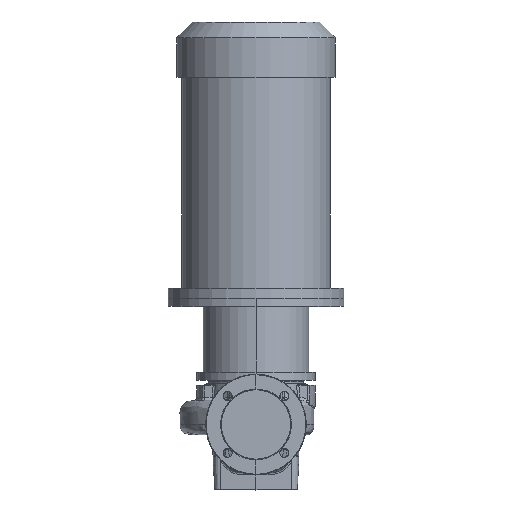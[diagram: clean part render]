
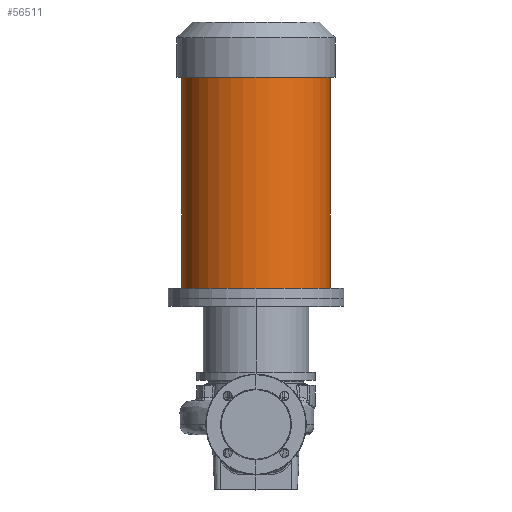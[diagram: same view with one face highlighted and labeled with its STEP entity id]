
A CAD part, top view. The second image highlights one B-rep face of the part: STEP entity #56511.
In plain terms, the highlighted cylindrical face has radius 147.5 mm (diameter 295 mm), a partial arc.
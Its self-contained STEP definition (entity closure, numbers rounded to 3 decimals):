
#381 = ORIENTED_EDGE ( 'NONE', *, *, #42051, .F. ) ;
#2093 = EDGE_CURVE ( 'NONE', #14093, #11474, #52465, .T. ) ;
#3736 = VECTOR ( 'NONE', #58586, 1000. ) ;
#3960 = CIRCLE ( 'NONE', #35612, 147.5 ) ;
#8129 = VECTOR ( 'NONE', #42388, 1000. ) ;
#8474 = DIRECTION ( 'NONE',  ( 0., -1., 0. ) ) ;
#10039 = CARTESIAN_POINT ( 'NONE',  ( -147.5, 251.3, 0. ) ) ;
#10995 = DIRECTION ( 'NONE',  ( -1., 0., 0. ) ) ;
#11295 = EDGE_CURVE ( 'NONE', #23219, #27178, #3960, .T. ) ;
#11474 = VERTEX_POINT ( 'NONE', #14134 ) ;
#13350 = DIRECTION ( 'NONE',  ( -1., 0., 0. ) ) ;
#14093 = VERTEX_POINT ( 'NONE', #31944 ) ;
#14134 = CARTESIAN_POINT ( 'NONE',  ( -147.5, 271.3, 0. ) ) ;
#15637 = CARTESIAN_POINT ( 'NONE',  ( 147.5, 251.3, 0. ) ) ;
#18528 = AXIS2_PLACEMENT_3D ( 'NONE', #31542, #31756, #22245 ) ;
#21911 = ORIENTED_EDGE ( 'NONE', *, *, #2093, .F. ) ;
#22245 = DIRECTION ( 'NONE',  ( -1., 0., 0. ) ) ;
#22667 = EDGE_CURVE ( 'NONE', #27178, #11474, #55112, .T. ) ;
#23033 = ORIENTED_EDGE ( 'NONE', *, *, #11295, .T. ) ;
#23219 = VERTEX_POINT ( 'NONE', #29627 ) ;
#25031 = AXIS2_PLACEMENT_3D ( 'NONE', #44176, #39948, #10995 ) ;
#27178 = VERTEX_POINT ( 'NONE', #56767 ) ;
#29627 = CARTESIAN_POINT ( 'NONE',  ( 147.5, 691.3, 0. ) ) ;
#31542 = CARTESIAN_POINT ( 'NONE',  ( 0., 271.3, 0. ) ) ;
#31756 = DIRECTION ( 'NONE',  ( 0., -1., 0. ) ) ;
#31944 = CARTESIAN_POINT ( 'NONE',  ( 147.5, 271.3, 0. ) ) ;
#35612 = AXIS2_PLACEMENT_3D ( 'NONE', #46919, #8474, #13350 ) ;
#39064 = CYLINDRICAL_SURFACE ( 'NONE', #25031, 147.5 ) ;
#39948 = DIRECTION ( 'NONE',  ( 0., -1., 0. ) ) ;
#40165 = EDGE_LOOP ( 'NONE', ( #381, #23033, #58432, #21911 ) ) ;
#42051 = EDGE_CURVE ( 'NONE', #23219, #14093, #46684, .T. ) ;
#42388 = DIRECTION ( 'NONE',  ( 0., -1., 0. ) ) ;
#44176 = CARTESIAN_POINT ( 'NONE',  ( 0., 251.3, 0. ) ) ;
#46684 = LINE ( 'NONE', #15637, #8129 ) ;
#46919 = CARTESIAN_POINT ( 'NONE',  ( 0., 691.3, 0. ) ) ;
#49602 = FACE_OUTER_BOUND ( 'NONE', #40165, .T. ) ;
#52465 = CIRCLE ( 'NONE', #18528, 147.5 ) ;
#55112 = LINE ( 'NONE', #10039, #3736 ) ;
#56511 = ADVANCED_FACE ( 'NONE', ( #49602 ), #39064, .T. ) ;
#56767 = CARTESIAN_POINT ( 'NONE',  ( -147.5, 691.3, 0. ) ) ;
#58432 = ORIENTED_EDGE ( 'NONE', *, *, #22667, .T. ) ;
#58586 = DIRECTION ( 'NONE',  ( 0., -1., 0. ) ) ;
